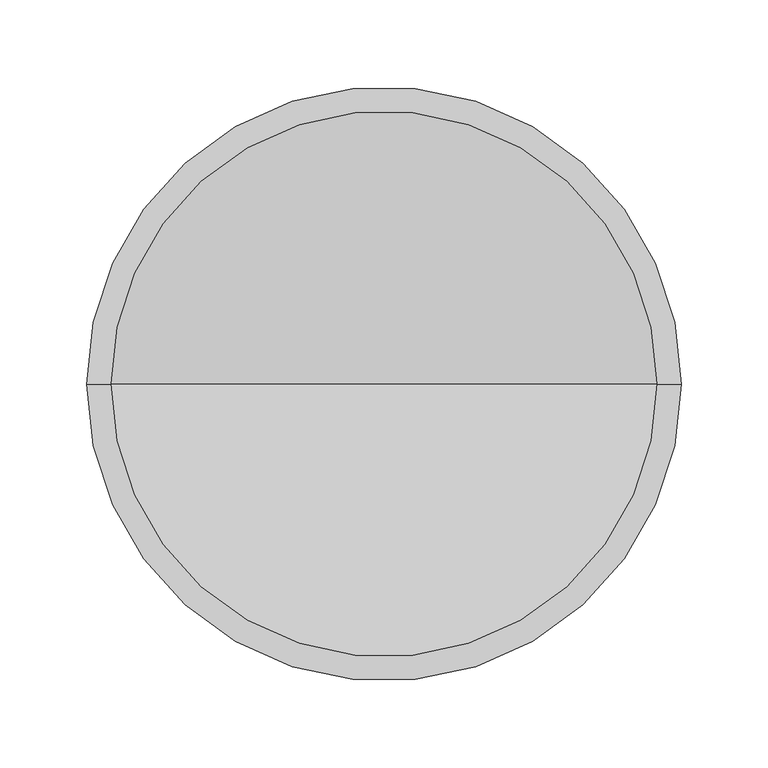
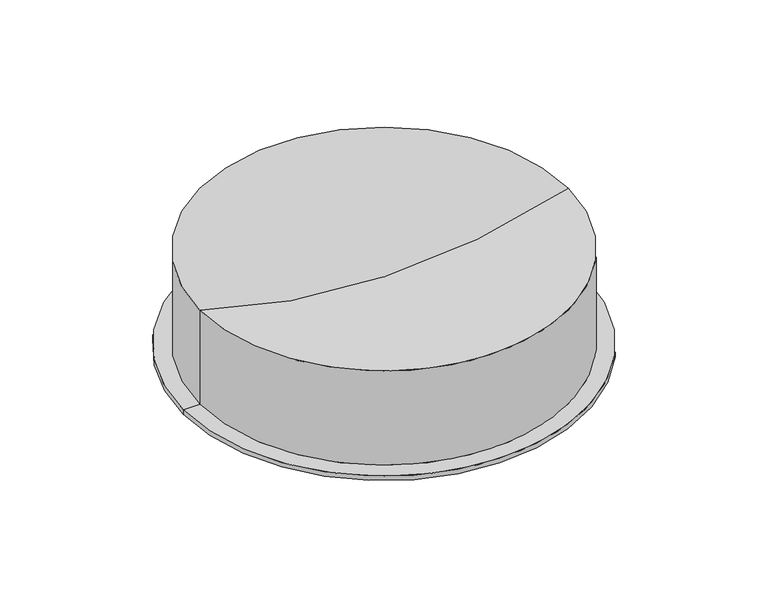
"""IFC4 building model written with IfcOpenShell, lengths in millimetres: valve geometry, Pipelife - Studnia PRO - Dno studni 315 : Dno studni."""

from ifc_helpers import new_model, si_unit, point, frame, origin, origin_with_axes, place, context, project, spatial, circle_curve, ellipse_curve, trimmed, source, transform, mapped, element, save
from ifc_brep_helpers import plane_surface, cylinder_surface, revolved_surface, advanced_brep


def valve_b0f5689b(model_context):
    return source(origin(), model_context, "Body", "AdvancedBrep", [
        advanced_brep(
        [(-171.0, 0.0, 4.0), (171.0, 0.0, 4.0), (171.0, 0.0, 0.0), (-171.0, 0.0, 0.0), (-157.0, 0.0, 4.0), (157.0, 0.0, 4.0), (-157.0, 0.0, 89.0), (157.0, 0.0, 89.0), (0.0, 0.0, 0.0), (0.0, 0.0, 64.0)],
        [
            (0, 1, circle_curve(frame((0.0, 0.0, 4.0), z_axis=(0.0, 0.0, -1.0), x_axis=(1.0, 0.0, 0.0)), 171.0)),
            (1, 2),
            (2, 3, circle_curve(origin_with_axes(), 171.0)),
            (3, 0),
            (1, 0, circle_curve(frame((0.0, 0.0, 4.0), z_axis=(0.0, 0.0, -1.0), x_axis=(1.0, 0.0, 0.0)), 171.0)),
            (3, 2, circle_curve(origin_with_axes(), 171.0)),
            (4, 5, circle_curve(frame((0.0, 0.0, 4.0), z_axis=(0.0, 0.0, -1.0), x_axis=(1.0, 0.0, 0.0)), 157.0)),
            (5, 1),
            (0, 4),
            (5, 4, circle_curve(frame((0.0, 0.0, 4.0), z_axis=(0.0, 0.0, -1.0), x_axis=(1.0, 0.0, 0.0)), 157.0)),
            (6, 7, circle_curve(frame((0.0, 0.0, 89.0), z_axis=(0.0, 0.0, -1.0), x_axis=(1.0, 0.0, 0.0)), 157.0)),
            (7, 5),
            (4, 6),
            (7, 6, circle_curve(frame((0.0, 0.0, 89.0), z_axis=(0.0, 0.0, -1.0), x_axis=(1.0, 0.0, 0.0)), 157.0)),
            (2, 8),
            (8, 3),
            (9, 7, circle_curve(frame((0.0, 0.0, 569.48), z_axis=(0.0, -1.0, 0.0), x_axis=(1.0, 0.0, 0.0)), 505.48)),
            (6, 9, circle_curve(frame((0.0, 0.0, 569.48), z_axis=(0.0, -1.0, 0.0), x_axis=(-1.0, 0.0, 0.0)), 505.48)),
        ],
        [
            cylinder_surface(frame((0.0, 0.0, 164.0), z_axis=(0.0, 0.0, 1.0), x_axis=(1.0, 0.0, 0.0)), 171.0),
            plane_surface(frame((0.0, 0.0, 4.0), z_axis=(0.0, 0.0, 1.0), x_axis=(1.0, 0.0, 0.0))),
            cylinder_surface(frame((0.0, 0.0, 164.0), z_axis=(0.0, 0.0, 1.0), x_axis=(1.0, 0.0, 0.0)), 157.0),
            plane_surface(frame((0.0, 0.0, 0.0), z_axis=(0.0, 0.0, -1.0), x_axis=(1.0, 0.0, 0.0))),
            revolved_surface(trimmed(ellipse_curve(frame((0.0, 0.0, 569.48), z_axis=(0.0, 1.0, 0.0), x_axis=(1.0, 0.0, 0.0)), 505.48, 505.48), [point((157.0, 0.0, 89.0))], [point((0.0, 0.0, 64.0))], True, "CARTESIAN"), (0.0, 0.0, 164.0), (0.0, 0.0, 1.0)),
        ],
        [
            (0, [[1, 2, 3, 4]]),
            (0, [[5, -4, 6, -2]]),
            (1, [[7, 8, -1, 9]]),
            (1, [[10, -9, -5, -8]]),
            (2, [[11, 12, -7, 13]]),
            (2, [[14, -13, -10, -12]]),
            (3, [[-3, 15, 16]]),
            (3, [[-6, -16, -15]]),
            (4, [[17, -11, 18]]),
            (4, [[-18, -14, -17]]),
        ],
    ),
    ])


if __name__ == "__main__":
    model = new_model("IFC4")
    model_context = context("Model", 3, world=origin())
    ifc_project = project(units=[si_unit("LENGTHUNIT", "METRE", prefix="MILLI")], contexts=[model_context])
    site = spatial("IfcSite", under=ifc_project)
    building = spatial("IfcBuilding", under=site)
    placement = place(None, origin())
    valve_shape = valve_b0f5689b(model_context)
    element("IfcValve", 1, ObjectType="Pipelife - Studnia PRO - Dno studni 315 : Dno studni", at=placement, inside=building, context=model_context, shape_type="MappedRepresentation", body=[
        mapped(valve_shape, transform((0.0, 0.0, 0.0), x_axis=(1.0, 0.0, 0.0), y_axis=(0.0, 1.0, 0.0), z_axis=(0.0, 0.0, 1.0))),
    ])
    save(model, "model.ifc")
